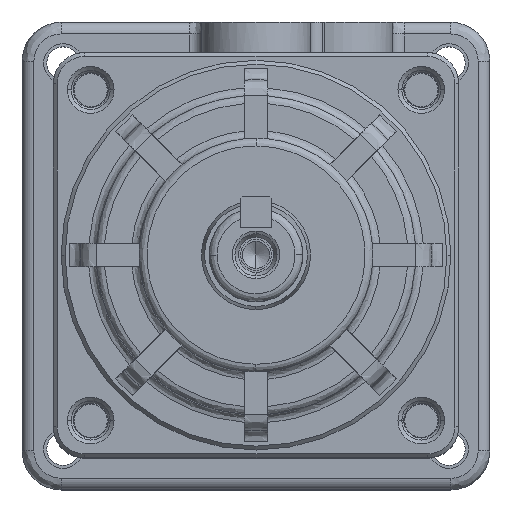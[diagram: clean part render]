
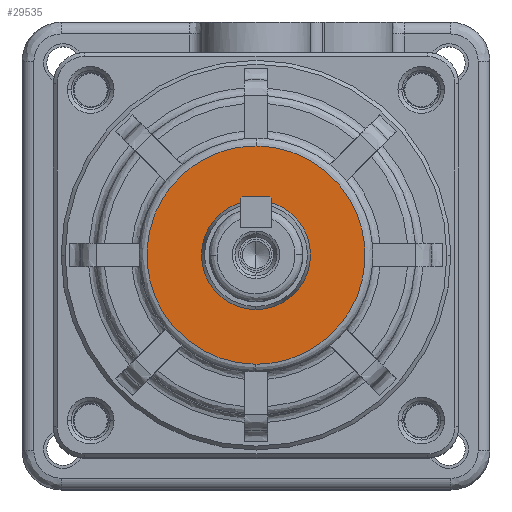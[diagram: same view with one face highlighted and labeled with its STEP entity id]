
A CAD part, top view. The second image highlights one B-rep face of the part: STEP entity #29535.
In plain terms, the highlighted planar face has unit normal (0, 0, 1).
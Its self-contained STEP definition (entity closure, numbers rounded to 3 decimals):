
#70 = EDGE_CURVE ( 'NONE', #8213, #13813, #25311, .T. ) ;
#568 = CARTESIAN_POINT ( 'NONE',  ( 27.884, 13.768, 35. ) ) ;
#1265 = EDGE_LOOP ( 'NONE', ( #22972, #6086, #10371, #3819 ) ) ;
#3819 = ORIENTED_EDGE ( 'NONE', *, *, #10342, .F. ) ;
#4302 = EDGE_CURVE ( 'NONE', #13813, #8069, #28976, .T. ) ;
#5757 = CARTESIAN_POINT ( 'NONE',  ( 0., 14., 35. ) ) ;
#6086 = ORIENTED_EDGE ( 'NONE', *, *, #70, .F. ) ;
#6268 = AXIS2_PLACEMENT_3D ( 'NONE', #7582, #21531, #26230 ) ;
#7582 = CARTESIAN_POINT ( 'NONE',  ( 0., 0., 35. ) ) ;
#7741 = CARTESIAN_POINT ( 'NONE',  ( 0., -14., 35. ) ) ;
#7910 = CARTESIAN_POINT ( 'NONE',  ( 0., 14., 35. ) ) ;
#8069 = VERTEX_POINT ( 'NONE', #11734 ) ;
#8213 = VERTEX_POINT ( 'NONE', #24741 ) ;
#10342 = EDGE_CURVE ( 'NONE', #8069, #28343, #17639, .T. ) ;
#10371 = ORIENTED_EDGE ( 'NONE', *, *, #19139, .F. ) ;
#11734 = CARTESIAN_POINT ( 'NONE',  ( 0.117, 14., 35. ) ) ;
#11875 = CARTESIAN_POINT ( 'NONE',  ( 0.039, 14., 35. ) ) ;
#12031 =( BOUNDED_CURVE ( )  B_SPLINE_CURVE ( 3, ( #22754, #25125, #13714, #29973 ),
 .UNSPECIFIED., .F., .F. ) 
 B_SPLINE_CURVE_WITH_KNOTS ( ( 4, 4 ),
 ( 0., 0.003 ),
 .UNSPECIFIED. ) 
 CURVE ( )  GEOMETRIC_REPRESENTATION_ITEM ( )  RATIONAL_B_SPLINE_CURVE ( ( 1., 1., 1., 1. ) ) 
 REPRESENTATION_ITEM ( '' )  );
#12126 = CARTESIAN_POINT ( 'NONE',  ( 0., -14., 35. ) ) ;
#13714 = CARTESIAN_POINT ( 'NONE',  ( -0.078, -14., 35. ) ) ;
#13813 = VERTEX_POINT ( 'NONE', #5757 ) ;
#16659 = PLANE ( 'NONE',  #6268 ) ;
#17394 = CARTESIAN_POINT ( 'NONE',  ( -0.117, -14., 35. ) ) ;
#17639 =( BOUNDED_CURVE ( )  B_SPLINE_CURVE ( 3, ( #26161, #568, #23912, #12126 ),
 .UNSPECIFIED., .F., .F. ) 
 B_SPLINE_CURVE_WITH_KNOTS ( ( 4, 4 ),
 ( 0.003, 1. ),
 .UNSPECIFIED. ) 
 CURVE ( )  GEOMETRIC_REPRESENTATION_ITEM ( )  RATIONAL_B_SPLINE_CURVE ( ( 1., 0.336, 0.336, 1. ) ) 
 REPRESENTATION_ITEM ( '' )  );
#17840 = FACE_OUTER_BOUND ( 'NONE', #1265, .T. ) ;
#19139 = EDGE_CURVE ( 'NONE', #28343, #8213, #12031, .T. ) ;
#21104 = CARTESIAN_POINT ( 'NONE',  ( 0., 14., 35. ) ) ;
#21531 = DIRECTION ( 'NONE',  ( 0., 0., 1. ) ) ;
#21756 = CARTESIAN_POINT ( 'NONE',  ( -27.884, -13.768, 35. ) ) ;
#22053 = CARTESIAN_POINT ( 'NONE',  ( -27.768, 14., 35. ) ) ;
#22754 = CARTESIAN_POINT ( 'NONE',  ( 0., -14., 35. ) ) ;
#22972 = ORIENTED_EDGE ( 'NONE', *, *, #4302, .F. ) ;
#23912 = CARTESIAN_POINT ( 'NONE',  ( 27.768, -14., 35. ) ) ;
#24741 = CARTESIAN_POINT ( 'NONE',  ( -0.117, -14., 35. ) ) ;
#25125 = CARTESIAN_POINT ( 'NONE',  ( -0.039, -14., 35. ) ) ;
#25311 =( BOUNDED_CURVE ( )  B_SPLINE_CURVE ( 3, ( #17394, #21756, #22053, #7910 ),
 .UNSPECIFIED., .F., .F. ) 
 B_SPLINE_CURVE_WITH_KNOTS ( ( 4, 4 ),
 ( 0.003, 1. ),
 .UNSPECIFIED. ) 
 CURVE ( )  GEOMETRIC_REPRESENTATION_ITEM ( )  RATIONAL_B_SPLINE_CURVE ( ( 1., 0.336, 0.336, 1. ) ) 
 REPRESENTATION_ITEM ( '' )  );
#25626 = CARTESIAN_POINT ( 'NONE',  ( 0.117, 14., 35. ) ) ;
#26161 = CARTESIAN_POINT ( 'NONE',  ( 0.117, 14., 35. ) ) ;
#26230 = DIRECTION ( 'NONE',  ( 1., 0., 0. ) ) ;
#28045 = CARTESIAN_POINT ( 'NONE',  ( 0.078, 14., 35. ) ) ;
#28343 = VERTEX_POINT ( 'NONE', #7741 ) ;
#28976 =( BOUNDED_CURVE ( )  B_SPLINE_CURVE ( 3, ( #21104, #11875, #28045, #25626 ),
 .UNSPECIFIED., .F., .F. ) 
 B_SPLINE_CURVE_WITH_KNOTS ( ( 4, 4 ),
 ( 0., 0.003 ),
 .UNSPECIFIED. ) 
 CURVE ( )  GEOMETRIC_REPRESENTATION_ITEM ( )  RATIONAL_B_SPLINE_CURVE ( ( 1., 1., 1., 1. ) ) 
 REPRESENTATION_ITEM ( '' )  );
#29535 = ADVANCED_FACE ( 'NONE', ( #17840 ), #16659, .T. ) ;
#29973 = CARTESIAN_POINT ( 'NONE',  ( -0.117, -14., 35. ) ) ;
